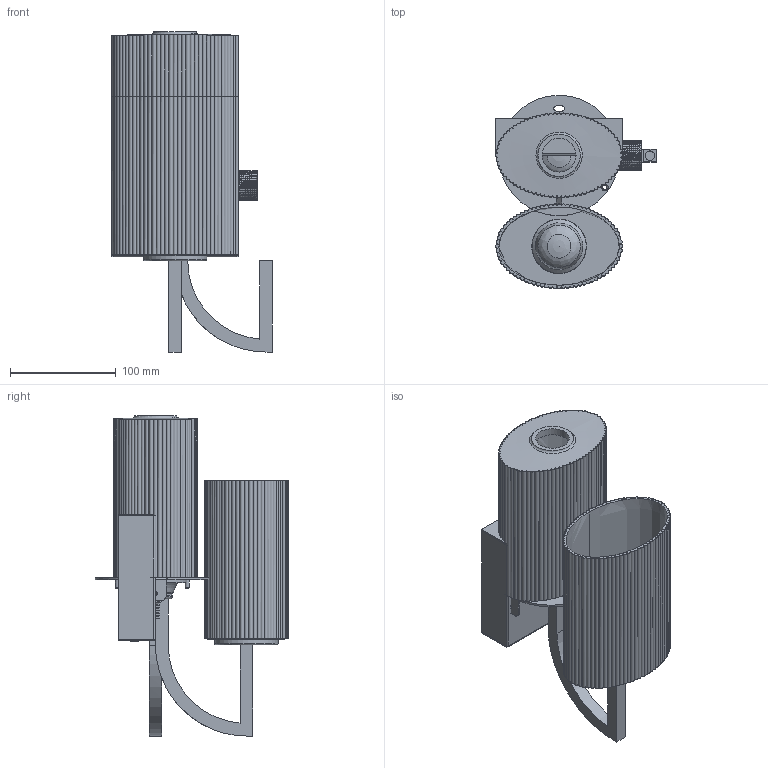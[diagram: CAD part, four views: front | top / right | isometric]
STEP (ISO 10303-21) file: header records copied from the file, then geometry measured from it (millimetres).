
FILE_DESCRIPTION( ( 'Unknown' ), '1' );
FILE_NAME( '//MMS001/Pubblica/PROGETTI MM LAMPADARI/7413 SERIE OVAL/STUDIO/APPLIQUE 1 LUCE/7413APPLIQUE SINGOLO.stp', 'Unknown', ( 'Unknown' ), ( 'Unknown' ), 'XStep 1.0', 'Unknown', ' ' );
FILE_SCHEMA( ( 'automotive_design' ) );
Length unit declared in the file: millimetre
Products named in the file (16): Assem1; Assem2; CPE14; CM600; 7413C010 ROSONE QUADRATO; 7413C012 BRACCIO APPL SINGOLO; 400125059 STAFFA A SOFFITTO; 400104015 TUBETTO FILETTATO D9,5 L=15; 400104025 TUBETTO FILETTATO D9,5 L=25; 400109001 RONDELLA DENTATA M10; 400108502 DADO M10x1; 400123060 CENTRATUBO FE D 60X5; 7413C003 VETRO; 7415C070 GHIERA; 4001M412S VITE TESTA SVASATA M4X12; LAMPADINA E14 OSRAM
Bounding box: 152.02 x 183 x 303 mm (x, y, z)
Volume: 640256.5 mm3; surface area: 542788.3 mm2
Topology: 31 solids, 31 shells, 1812 faces, 4768 edges, 3028 vertices
Faces by surface type: plane 809, cylinder 536, extrusion 148, torus 141, cone 96, bspline 44, sphere 38
Full cylindrical faces by diameter (mm): 1.567 x3, 2 x3, 3 x5, 3.242 x4, 4 x13, 4.5 x4, 5 x4, 8 x4, 8.917 x6, 10 x4, 10.25 x6, 13.044 x12, 14 x2, 16 x3, 16.211 x2, 18.985 x2, 20 x3, 22.5 x15, 28 x5, 32 x2, 58 x2, 60 x2
Entity records: 28295 total; most frequent: CARTESIAN_POINT 10468, ORIENTED_EDGE 3606, DIRECTION 3507, EDGE_CURVE 1803, AXIS2_PLACEMENT_3D 1282, VERTEX_POINT 1215, VECTOR 943, EDGE_LOOP 916
